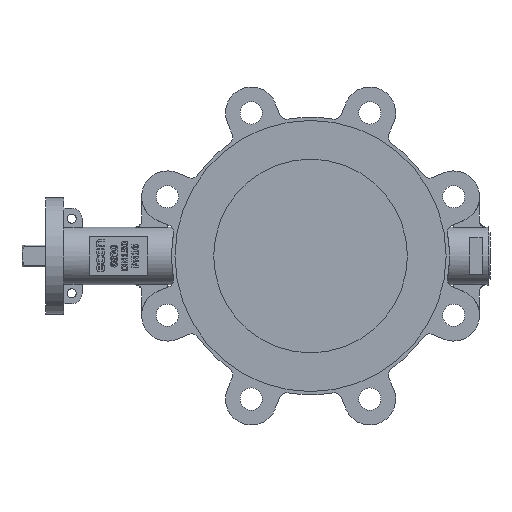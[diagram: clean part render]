
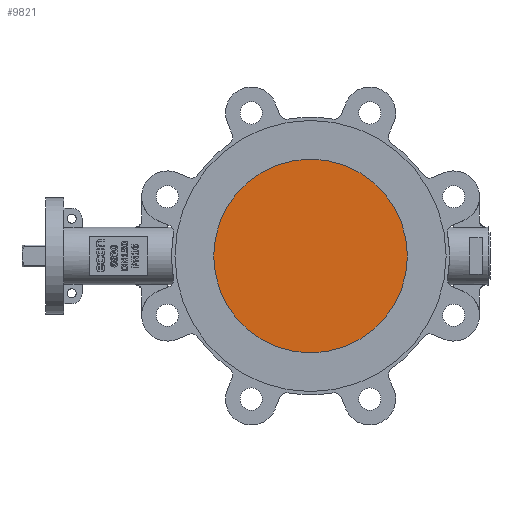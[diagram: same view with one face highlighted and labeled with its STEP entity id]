
A CAD part, left-side view. The second image highlights one B-rep face of the part: STEP entity #9821.
In plain terms, the highlighted planar face has unit normal (-1, 0, 0).
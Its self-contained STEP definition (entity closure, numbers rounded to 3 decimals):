
#2291=PLANE('',#10430);
#2786=FACE_OUTER_BOUND('',#3354,.T.);
#3354=EDGE_LOOP('',(#8819));
#3578=CIRCLE('',#10429,75.);
#4755=VERTEX_POINT('',#17592);
#6111=EDGE_CURVE('',#4755,#4755,#3578,.T.);
#8819=ORIENTED_EDGE('',*,*,#6111,.F.);
#9821=ADVANCED_FACE('',(#2786),#2291,.F.);
#10429=AXIS2_PLACEMENT_3D('',#17594,#12451,#12452);
#10430=AXIS2_PLACEMENT_3D('',#17595,#12453,#12454);
#12451=DIRECTION('center_axis',(1.,0.,0.));
#12452=DIRECTION('ref_axis',(0.,0.,-1.));
#12453=DIRECTION('center_axis',(1.,0.,0.));
#12454=DIRECTION('ref_axis',(0.,0.,-1.));
#17592=CARTESIAN_POINT('',(-17.811,-48.753,75.));
#17594=CARTESIAN_POINT('Origin',(-17.811,-48.753,0.));
#17595=CARTESIAN_POINT('Origin',(-17.811,-48.753,0.));
